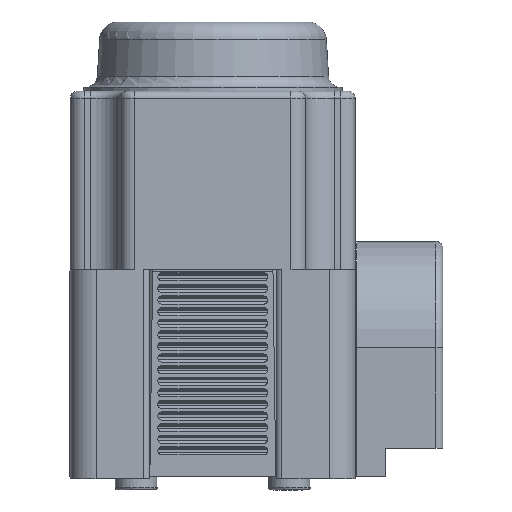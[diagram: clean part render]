
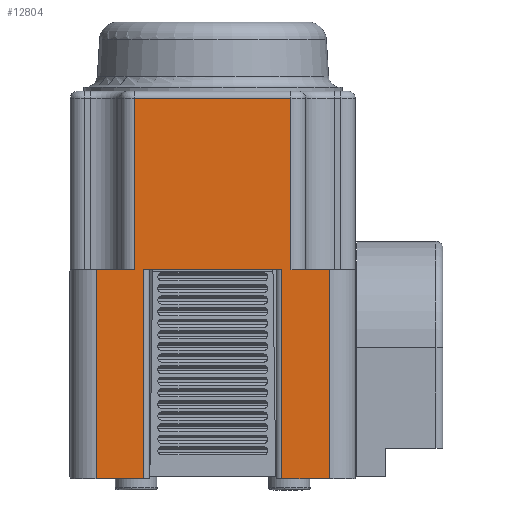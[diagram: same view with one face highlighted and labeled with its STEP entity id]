
A CAD part, left-side view. The second image highlights one B-rep face of the part: STEP entity #12804.
In plain terms, the highlighted planar face has unit normal (-1, 0, 0).
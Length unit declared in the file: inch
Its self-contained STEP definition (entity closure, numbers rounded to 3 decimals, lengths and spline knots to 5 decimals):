
#502=PLANE('',#14275);
#1413=FACE_OUTER_BOUND('',#2187,.T.);
#2187=EDGE_LOOP('',(#10990,#10991,#10992,#10993,#10994,#10995,#10996,#10997,
#10998,#10999,#11000,#11001));
#3597=LINE('',#24890,#4423);
#3610=LINE('',#24960,#4436);
#3726=LINE('',#26535,#4552);
#3743=LINE('',#26593,#4569);
#3744=LINE('',#26597,#4570);
#3747=LINE('',#26616,#4573);
#3760=LINE('',#26692,#4586);
#3761=LINE('',#26696,#4587);
#3762=LINE('',#26697,#4588);
#3763=LINE('',#26699,#4589);
#3764=LINE('',#26701,#4590);
#3765=LINE('',#26702,#4591);
#4423=VECTOR('',#17390,0.3937);
#4436=VECTOR('',#17473,0.3937);
#4552=VECTOR('',#17783,0.3937);
#4569=VECTOR('',#17852,0.3937);
#4570=VECTOR('',#17857,0.3937);
#4573=VECTOR('',#17878,0.3937);
#4586=VECTOR('',#17979,0.3937);
#4587=VECTOR('',#17984,0.3937);
#4588=VECTOR('',#17985,0.3937);
#4589=VECTOR('',#17986,0.3937);
#4590=VECTOR('',#17987,0.3937);
#4591=VECTOR('',#17988,0.3937);
#5572=VERTEX_POINT('',#24882);
#5574=VERTEX_POINT('',#24888);
#5596=VERTEX_POINT('',#24958);
#5726=VERTEX_POINT('',#26532);
#5727=VERTEX_POINT('',#26534);
#5742=VERTEX_POINT('',#26592);
#5743=VERTEX_POINT('',#26596);
#5750=VERTEX_POINT('',#26614);
#5769=VERTEX_POINT('',#26691);
#5770=VERTEX_POINT('',#26695);
#5771=VERTEX_POINT('',#26698);
#5772=VERTEX_POINT('',#26700);
#7228=EDGE_CURVE('',#5574,#5572,#3597,.T.);
#7264=EDGE_CURVE('',#5596,#5574,#3610,.T.);
#7466=EDGE_CURVE('',#5727,#5726,#3726,.T.);
#7495=EDGE_CURVE('',#5742,#5572,#3743,.T.);
#7497=EDGE_CURVE('',#5743,#5742,#3744,.T.);
#7507=EDGE_CURVE('',#5596,#5750,#3747,.T.);
#7545=EDGE_CURVE('',#5769,#5727,#3760,.T.);
#7547=EDGE_CURVE('',#5770,#5750,#3761,.T.);
#7548=EDGE_CURVE('',#5769,#5770,#3762,.T.);
#7549=EDGE_CURVE('',#5771,#5726,#3763,.T.);
#7550=EDGE_CURVE('',#5771,#5772,#3764,.T.);
#7551=EDGE_CURVE('',#5772,#5743,#3765,.T.);
#10990=ORIENTED_EDGE('',*,*,#7228,.F.);
#10991=ORIENTED_EDGE('',*,*,#7264,.F.);
#10992=ORIENTED_EDGE('',*,*,#7507,.T.);
#10993=ORIENTED_EDGE('',*,*,#7547,.F.);
#10994=ORIENTED_EDGE('',*,*,#7548,.F.);
#10995=ORIENTED_EDGE('',*,*,#7545,.T.);
#10996=ORIENTED_EDGE('',*,*,#7466,.T.);
#10997=ORIENTED_EDGE('',*,*,#7549,.F.);
#10998=ORIENTED_EDGE('',*,*,#7550,.T.);
#10999=ORIENTED_EDGE('',*,*,#7551,.T.);
#11000=ORIENTED_EDGE('',*,*,#7497,.T.);
#11001=ORIENTED_EDGE('',*,*,#7495,.T.);
#12804=ADVANCED_FACE('',(#1413),#502,.T.);
#14275=AXIS2_PLACEMENT_3D('',#26694,#17982,#17983);
#17390=DIRECTION('',(0.,-1.,0.));
#17473=DIRECTION('',(0.,0.,1.));
#17783=DIRECTION('',(0.,-1.,0.));
#17852=DIRECTION('',(0.,0.,1.));
#17857=DIRECTION('',(0.,1.,0.));
#17878=DIRECTION('',(0.,1.,0.));
#17979=DIRECTION('',(0.,0.,1.));
#17982=DIRECTION('center_axis',(-1.,0.,0.));
#17983=DIRECTION('ref_axis',(0.,0.,1.));
#17984=DIRECTION('',(0.,0.,1.));
#17985=DIRECTION('',(0.,1.,0.));
#17986=DIRECTION('',(0.,0.,1.));
#17987=DIRECTION('',(0.,-1.,0.));
#17988=DIRECTION('',(0.,0.,1.));
#24882=CARTESIAN_POINT('',(-0.46451,-0.48837,0.6733));
#24888=CARTESIAN_POINT('',(-0.46451,0.17963,0.6733));
#24890=CARTESIAN_POINT('',(-0.46451,0.17963,0.6733));
#24958=CARTESIAN_POINT('',(-0.46451,0.17963,-0.0587));
#24960=CARTESIAN_POINT('',(-0.46451,0.17963,-0.0587));
#26532=CARTESIAN_POINT('',(-0.46451,-0.44837,-0.0587));
#26534=CARTESIAN_POINT('',(-0.46451,0.13963,-0.0587));
#26535=CARTESIAN_POINT('',(-0.46451,0.13963,-0.0587));
#26592=CARTESIAN_POINT('',(-0.46451,-0.48837,-0.0587));
#26593=CARTESIAN_POINT('',(-0.46451,-0.48837,-0.0587));
#26596=CARTESIAN_POINT('',(-0.46451,-0.65337,-0.0587));
#26597=CARTESIAN_POINT('',(-0.46451,-0.65337,-0.0587));
#26614=CARTESIAN_POINT('',(-0.46451,0.34463,-0.0587));
#26616=CARTESIAN_POINT('',(-0.46451,0.17963,-0.0587));
#26691=CARTESIAN_POINT('',(-0.46451,0.13963,-0.9527));
#26692=CARTESIAN_POINT('',(-0.46451,0.13963,-0.9527));
#26694=CARTESIAN_POINT('Origin',(-0.46451,-0.65376,
-0.1397));
#26695=CARTESIAN_POINT('',(-0.46451,0.34463,-0.9527));
#26696=CARTESIAN_POINT('',(-0.46451,0.34463,-0.9527));
#26697=CARTESIAN_POINT('',(-0.46451,0.13963,-0.9527));
#26698=CARTESIAN_POINT('',(-0.46451,-0.44837,-0.9527));
#26699=CARTESIAN_POINT('',(-0.46451,-0.44837,-0.9527));
#26700=CARTESIAN_POINT('',(-0.46451,-0.65337,-0.9527));
#26701=CARTESIAN_POINT('',(-0.46451,-0.44837,-0.9527));
#26702=CARTESIAN_POINT('',(-0.46451,-0.65337,-0.9527));
